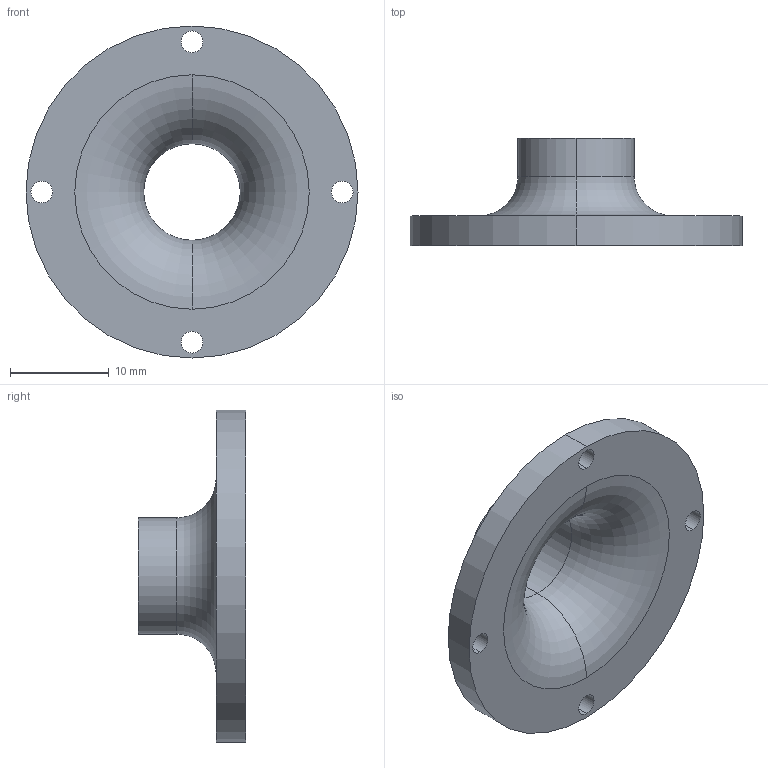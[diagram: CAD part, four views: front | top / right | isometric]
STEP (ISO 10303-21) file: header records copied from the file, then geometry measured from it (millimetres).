
FILE_DESCRIPTION (( 'STEP AP214' ), '1' );
FILE_NAME ('LSQ-00-033-1-DIFFUSER-A.STEP', '2021-11-05T01:47:45', ( '' ), ( '' ), 'SwSTEP 2.0', 'SolidWorks 2021', '' );
FILE_SCHEMA (( 'AUTOMOTIVE_DESIGN' ));
Length unit declared in the file: millimetre
Products named in the file (1): LSQ-00-033-1-DIFFUSER-A
Bounding box: 33.7 x 10.9 x 33.7 mm (x, y, z)
Volume: 2391.6 mm3; surface area: 2504.4 mm2
Topology: 1 solids, 1 shells, 21 faces, 50 edges, 32 vertices
Faces by surface type: cylinder 14, torus 4, plane 3
Entity records: 682 total; most frequent: DIRECTION 130, CARTESIAN_POINT 104, ORIENTED_EDGE 100, AXIS2_PLACEMENT_3D 58, EDGE_CURVE 50, CIRCLE 36, VERTEX_POINT 32, EDGE_LOOP 32
